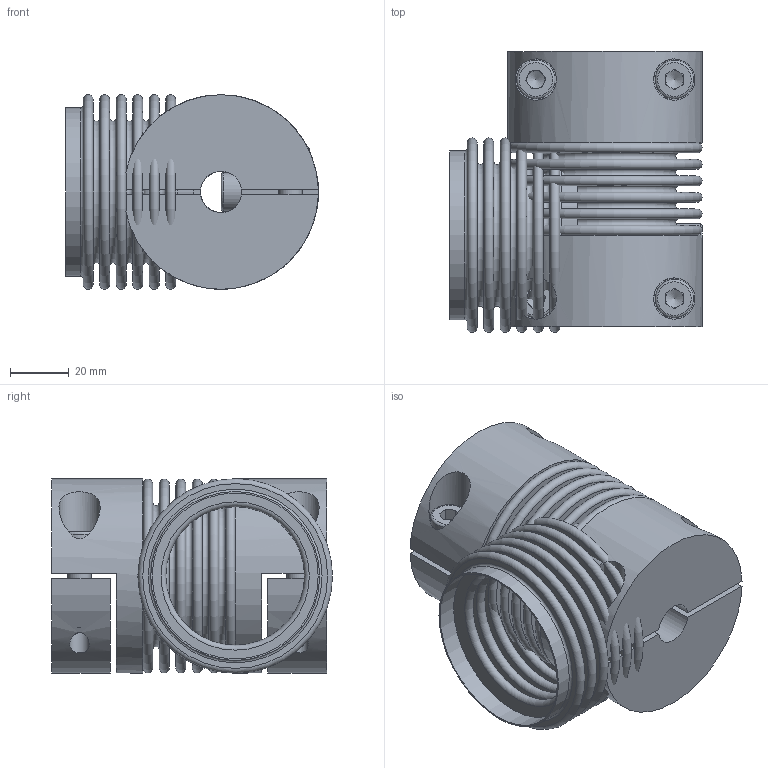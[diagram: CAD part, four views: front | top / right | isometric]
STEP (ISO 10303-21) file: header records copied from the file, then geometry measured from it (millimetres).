
FILE_DESCRIPTION( ( 'Unknown' ), '1' );
FILE_NAME( 'C:/Dokumente und Einstellungen/SKarpstein/Desktop/hp kbk/KB4H-60-93.stp', 'Unknown', ( 'Unknown' ), ( 'Unknown' ), 'XStep 1.0', 'Unknown', ' ' );
FILE_SCHEMA( ( 'automotive_design' ) );
Length unit declared in the file: millimetre
Products named in the file (5): Assem1; KN4H-60; Socket Head Cap Screw_DIN_DIN 912 M8 x 25 --- 25N_2; BL60_Standard_0
Bounding box: 85.72 x 95.3 x 66 mm (x, y, z)
Volume: 300425.7 mm3; surface area: 162431.5 mm2
Topology: 13 solids, 13 shells, 276 faces, 553 edges, 359 vertices
Faces by surface type: plane 160, torus 58, cylinder 48, cone 10
Full cylindrical faces by diameter (mm): 6.647 x6, 8 x5, 8.5 x6, 13 x5, 14 x9, 56.3 x4, 57.3 x4, 66 x3
Entity records: 2742 total; most frequent: CARTESIAN_POINT 653, DIRECTION 422, ORIENTED_EDGE 258, AXIS2_PLACEMENT_3D 191, EDGE_LOOP 176, FACE_OUTER_BOUND 136, EDGE_CURVE 129, VERTEX_POINT 110
